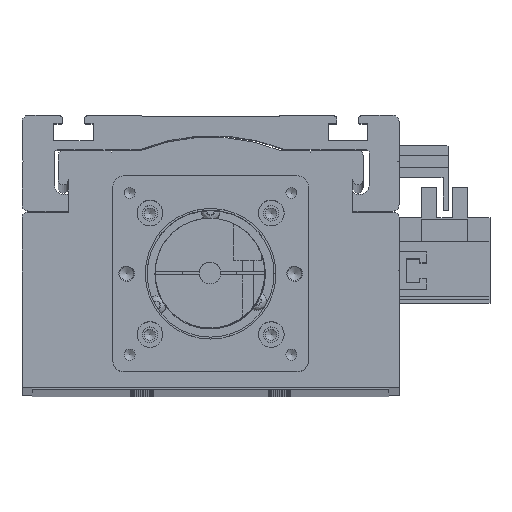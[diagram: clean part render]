
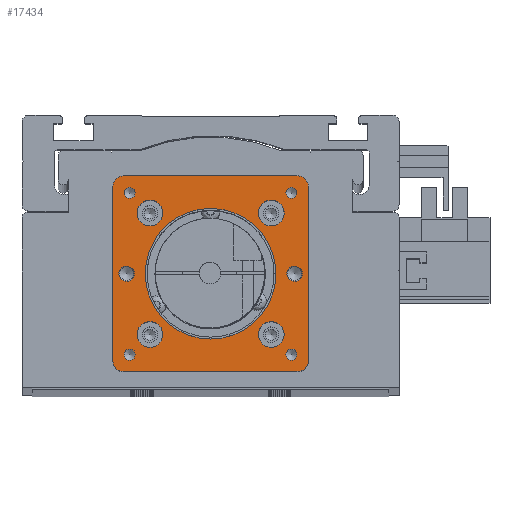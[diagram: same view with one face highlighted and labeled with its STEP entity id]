
A CAD part, top view. The second image highlights one B-rep face of the part: STEP entity #17434.
In plain terms, the highlighted planar face has unit normal (0, 0, 1).
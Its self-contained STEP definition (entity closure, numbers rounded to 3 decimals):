
#17198=CARTESIAN_POINT('',(54.0,57.0,0.0));
#17199=VERTEX_POINT('',#17198);
#17206=CARTESIAN_POINT('',(57.0,54.0,0.0));
#17207=VERTEX_POINT('',#17206);
#17208=CARTESIAN_POINT('',(54.0,54.0,0.0));
#17209=DIRECTION('',(0.0,0.0,-1.));
#17210=DIRECTION('',(0.707,0.707,0.0));
#17211=AXIS2_PLACEMENT_3D('',#17208,#17209,#17210);
#17212=CIRCLE('',#17211,3.);
#17213=EDGE_CURVE('',#17199,#17207,#17212,.T.);
#17230=CARTESIAN_POINT('',(57.0,3.,0.0));
#17231=VERTEX_POINT('',#17230);
#17232=CARTESIAN_POINT('',(57.0,3.,0.0));
#17233=DIRECTION('',(0.0,1.0,0.0));
#17234=VECTOR('',#17233,51.0);
#17235=LINE('',#17232,#17234);
#17236=EDGE_CURVE('',#17231,#17207,#17235,.T.);
#17255=CARTESIAN_POINT('',(28.5,28.5,0.0));
#17256=DIRECTION('',(0.0,0.0,1.0));
#17257=DIRECTION('',(1.0,0.0,0.0));
#17258=AXIS2_PLACEMENT_3D('',#17255,#17256,#17257);
#17259=PLANE('',#17258);
#17260=ORIENTED_EDGE('',*,*,#17213,.F.);
#17261=CARTESIAN_POINT('',(3.,57.0,0.0));
#17262=VERTEX_POINT('',#17261);
#17263=CARTESIAN_POINT('',(54.0,57.0,0.0));
#17264=DIRECTION('',(-1.0,0.0,0.0));
#17265=VECTOR('',#17264,51.0);
#17266=LINE('',#17263,#17265);
#17267=EDGE_CURVE('',#17199,#17262,#17266,.T.);
#17268=ORIENTED_EDGE('',*,*,#17267,.T.);
#17269=CARTESIAN_POINT('',(0.0,54.0,0.0));
#17270=VERTEX_POINT('',#17269);
#17271=CARTESIAN_POINT('',(3.,54.0,0.0));
#17272=DIRECTION('',(0.0,0.0,-1.0));
#17273=DIRECTION('',(-0.707,0.707,0.0));
#17274=AXIS2_PLACEMENT_3D('',#17271,#17272,#17273);
#17275=CIRCLE('',#17274,3.0);
#17276=EDGE_CURVE('',#17270,#17262,#17275,.T.);
#17277=ORIENTED_EDGE('',*,*,#17276,.F.);
#17278=CARTESIAN_POINT('',(0.0,3.,0.0));
#17279=VERTEX_POINT('',#17278);
#17280=CARTESIAN_POINT('',(0.0,54.0,0.0));
#17281=DIRECTION('',(0.0,-1.0,0.0));
#17282=VECTOR('',#17281,51.0);
#17283=LINE('',#17280,#17282);
#17284=EDGE_CURVE('',#17270,#17279,#17283,.T.);
#17285=ORIENTED_EDGE('',*,*,#17284,.T.);
#17286=CARTESIAN_POINT('',(3.,0.0,0.0));
#17287=VERTEX_POINT('',#17286);
#17288=CARTESIAN_POINT('',(3.,3.,0.0));
#17289=DIRECTION('',(0.0,0.0,-1.));
#17290=DIRECTION('',(-0.707,-0.707,0.0));
#17291=AXIS2_PLACEMENT_3D('',#17288,#17289,#17290);
#17292=CIRCLE('',#17291,3.);
#17293=EDGE_CURVE('',#17287,#17279,#17292,.T.);
#17294=ORIENTED_EDGE('',*,*,#17293,.F.);
#17295=CARTESIAN_POINT('',(54.0,0.0,0.0));
#17296=VERTEX_POINT('',#17295);
#17297=CARTESIAN_POINT('',(3.,0.0,0.0));
#17298=DIRECTION('',(1.0,0.0,0.0));
#17299=VECTOR('',#17298,51.0);
#17300=LINE('',#17297,#17299);
#17301=EDGE_CURVE('',#17287,#17296,#17300,.T.);
#17302=ORIENTED_EDGE('',*,*,#17301,.T.);
#17303=CARTESIAN_POINT('',(54.0,3.,0.0));
#17304=DIRECTION('',(0.0,0.0,-1.));
#17305=DIRECTION('',(0.707,-0.707,0.0));
#17306=AXIS2_PLACEMENT_3D('',#17303,#17304,#17305);
#17307=CIRCLE('',#17306,3.);
#17308=EDGE_CURVE('',#17231,#17296,#17307,.T.);
#17309=ORIENTED_EDGE('',*,*,#17308,.F.);
#17310=ORIENTED_EDGE('',*,*,#17236,.T.);
#17311=EDGE_LOOP('',(#17260,#17268,#17277,#17285,#17294,#17302,#17309,#17310));
#17312=FACE_OUTER_BOUND('',#17311,.T.);
#17313=CARTESIAN_POINT('',(6.25,28.5,0.0));
#17314=VERTEX_POINT('',#17313);
#17315=CARTESIAN_POINT('',(4.,28.5,0.0));
#17316=DIRECTION('',(0.0,0.0,-1.0));
#17317=DIRECTION('',(1.0,0.0,0.0));
#17318=AXIS2_PLACEMENT_3D('',#17315,#17316,#17317);
#17319=CIRCLE('',#17318,2.25);
#17320=EDGE_CURVE('',#17314,#17314,#17319,.T.);
#17321=ORIENTED_EDGE('',*,*,#17320,.T.);
#17322=EDGE_LOOP('',(#17321));
#17323=FACE_BOUND('',#17322,.T.);
#17324=CARTESIAN_POINT('',(55.25,28.5,0.0));
#17325=VERTEX_POINT('',#17324);
#17326=CARTESIAN_POINT('',(53.,28.5,0.0));
#17327=DIRECTION('',(0.0,0.0,-1.0));
#17328=DIRECTION('',(1.0,0.0,0.0));
#17329=AXIS2_PLACEMENT_3D('',#17326,#17327,#17328);
#17330=CIRCLE('',#17329,2.25);
#17331=EDGE_CURVE('',#17325,#17325,#17330,.T.);
#17332=ORIENTED_EDGE('',*,*,#17331,.T.);
#17333=EDGE_LOOP('',(#17332));
#17334=FACE_BOUND('',#17333,.T.);
#17335=CARTESIAN_POINT('',(6.546,4.925,0.0));
#17336=VERTEX_POINT('',#17335);
#17337=CARTESIAN_POINT('',(4.925,4.925,0.0));
#17338=DIRECTION('',(0.0,0.0,-1.0));
#17339=DIRECTION('',(1.0,0.0,0.0));
#17340=AXIS2_PLACEMENT_3D('',#17337,#17338,#17339);
#17341=CIRCLE('',#17340,1.621);
#17342=EDGE_CURVE('',#17336,#17336,#17341,.T.);
#17343=ORIENTED_EDGE('',*,*,#17342,.T.);
#17344=EDGE_LOOP('',(#17343));
#17345=FACE_BOUND('',#17344,.T.);
#17346=CARTESIAN_POINT('',(53.696,52.075,0.0));
#17347=VERTEX_POINT('',#17346);
#17348=CARTESIAN_POINT('',(52.075,52.075,0.0));
#17349=DIRECTION('',(0.0,0.0,-1.0));
#17350=DIRECTION('',(1.0,0.0,0.0));
#17351=AXIS2_PLACEMENT_3D('',#17348,#17349,#17350);
#17352=CIRCLE('',#17351,1.621);
#17353=EDGE_CURVE('',#17347,#17347,#17352,.T.);
#17354=ORIENTED_EDGE('',*,*,#17353,.T.);
#17355=EDGE_LOOP('',(#17354));
#17356=FACE_BOUND('',#17355,.T.);
#17357=CARTESIAN_POINT('',(6.546,52.075,0.0));
#17358=VERTEX_POINT('',#17357);
#17359=CARTESIAN_POINT('',(4.925,52.075,0.0));
#17360=DIRECTION('',(0.0,0.0,-1.0));
#17361=DIRECTION('',(1.0,0.0,0.0));
#17362=AXIS2_PLACEMENT_3D('',#17359,#17360,#17361);
#17363=CIRCLE('',#17362,1.621);
#17364=EDGE_CURVE('',#17358,#17358,#17363,.T.);
#17365=ORIENTED_EDGE('',*,*,#17364,.T.);
#17366=EDGE_LOOP('',(#17365));
#17367=FACE_BOUND('',#17366,.T.);
#17368=CARTESIAN_POINT('',(53.696,4.925,0.0));
#17369=VERTEX_POINT('',#17368);
#17370=CARTESIAN_POINT('',(52.075,4.925,0.0));
#17371=DIRECTION('',(0.0,0.0,-1.0));
#17372=DIRECTION('',(1.0,0.0,0.0));
#17373=AXIS2_PLACEMENT_3D('',#17370,#17371,#17372);
#17374=CIRCLE('',#17373,1.621);
#17375=EDGE_CURVE('',#17369,#17369,#17374,.T.);
#17376=ORIENTED_EDGE('',*,*,#17375,.T.);
#17377=EDGE_LOOP('',(#17376));
#17378=FACE_BOUND('',#17377,.T.);
#17379=CARTESIAN_POINT('',(49.95,10.8,0.0));
#17380=VERTEX_POINT('',#17379);
#17381=CARTESIAN_POINT('',(46.2,10.8,0.0));
#17382=DIRECTION('',(0.0,0.0,-1.0));
#17383=DIRECTION('',(1.0,0.0,0.0));
#17384=AXIS2_PLACEMENT_3D('',#17381,#17382,#17383);
#17385=CIRCLE('',#17384,3.75);
#17386=EDGE_CURVE('',#17380,#17380,#17385,.T.);
#17387=ORIENTED_EDGE('',*,*,#17386,.T.);
#17388=EDGE_LOOP('',(#17387));
#17389=FACE_BOUND('',#17388,.T.);
#17390=CARTESIAN_POINT('',(14.55,46.2,0.0));
#17391=VERTEX_POINT('',#17390);
#17392=CARTESIAN_POINT('',(10.8,46.2,0.0));
#17393=DIRECTION('',(0.0,0.0,-1.0));
#17394=DIRECTION('',(1.0,0.0,0.0));
#17395=AXIS2_PLACEMENT_3D('',#17392,#17393,#17394);
#17396=CIRCLE('',#17395,3.75);
#17397=EDGE_CURVE('',#17391,#17391,#17396,.T.);
#17398=ORIENTED_EDGE('',*,*,#17397,.T.);
#17399=EDGE_LOOP('',(#17398));
#17400=FACE_BOUND('',#17399,.T.);
#17401=CARTESIAN_POINT('',(49.95,46.2,0.0));
#17402=VERTEX_POINT('',#17401);
#17403=CARTESIAN_POINT('',(46.2,46.2,0.0));
#17404=DIRECTION('',(0.0,0.0,-1.0));
#17405=DIRECTION('',(1.0,0.0,0.0));
#17406=AXIS2_PLACEMENT_3D('',#17403,#17404,#17405);
#17407=CIRCLE('',#17406,3.75);
#17408=EDGE_CURVE('',#17402,#17402,#17407,.T.);
#17409=ORIENTED_EDGE('',*,*,#17408,.T.);
#17410=EDGE_LOOP('',(#17409));
#17411=FACE_BOUND('',#17410,.T.);
#17412=CARTESIAN_POINT('',(14.55,10.8,0.0));
#17413=VERTEX_POINT('',#17412);
#17414=CARTESIAN_POINT('',(10.8,10.8,0.0));
#17415=DIRECTION('',(0.0,0.0,-1.0));
#17416=DIRECTION('',(1.0,0.0,0.0));
#17417=AXIS2_PLACEMENT_3D('',#17414,#17415,#17416);
#17418=CIRCLE('',#17417,3.75);
#17419=EDGE_CURVE('',#17413,#17413,#17418,.T.);
#17420=ORIENTED_EDGE('',*,*,#17419,.T.);
#17421=EDGE_LOOP('',(#17420));
#17422=FACE_BOUND('',#17421,.T.);
#17423=CARTESIAN_POINT('',(47.55,28.5,0.0));
#17424=VERTEX_POINT('',#17423);
#17425=CARTESIAN_POINT('',(28.5,28.5,0.0));
#17426=DIRECTION('',(0.0,0.0,-1.0));
#17427=DIRECTION('',(-1.0,0.0,0.0));
#17428=AXIS2_PLACEMENT_3D('',#17425,#17426,#17427);
#17429=CIRCLE('',#17428,19.05);
#17430=EDGE_CURVE('',#17424,#17424,#17429,.T.);
#17431=ORIENTED_EDGE('',*,*,#17430,.T.);
#17432=EDGE_LOOP('',(#17431));
#17433=FACE_BOUND('',#17432,.T.);
#17434=ADVANCED_FACE('',(#17312,#17323,#17334,#17345,#17356,#17367,#17378,#17389,#17400,#17411,#17422,#17433),#17259,.T.);
